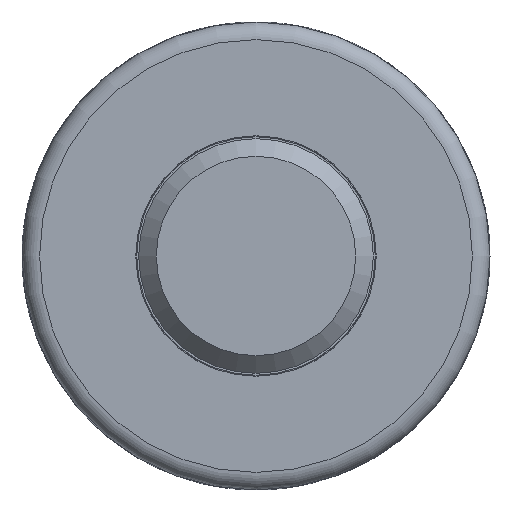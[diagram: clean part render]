
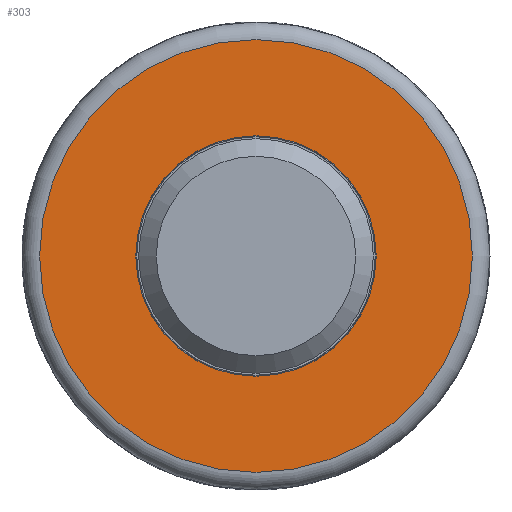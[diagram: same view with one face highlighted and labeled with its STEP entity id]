
A CAD part, front view. The second image highlights one B-rep face of the part: STEP entity #303.
In plain terms, the highlighted planar face has unit normal (0, -1, 0).
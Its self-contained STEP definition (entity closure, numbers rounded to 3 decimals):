
#303=ADVANCED_FACE('',(#387,#388),#339,.T.);
#339=PLANE('',#1209);
#355=CIRCLE('',#1194,2.05);
#364=CIRCLE('',#1208,3.69);
#387=FACE_BOUND('',#449,.T.);
#388=FACE_BOUND('',#450,.T.);
#449=EDGE_LOOP('',(#705));
#450=EDGE_LOOP('',(#706));
#705=ORIENTED_EDGE('',*,*,#1012,.T.);
#706=ORIENTED_EDGE('',*,*,#1003,.F.);
#865=VERTEX_POINT('',#6677);
#866=VERTEX_POINT('',#6692);
#1003=EDGE_CURVE('',#865,#865,#355,.T.);
#1012=EDGE_CURVE('',#866,#866,#364,.T.);
#1194=AXIS2_PLACEMENT_3D('',#6676,#1403,#1404);
#1208=AXIS2_PLACEMENT_3D('',#6691,#1431,#1432);
#1209=AXIS2_PLACEMENT_3D('',#6693,#1433,#1434);
#1403=DIRECTION('',(0.,-1.,0.));
#1404=DIRECTION('',(1.,0.,0.));
#1431=DIRECTION('',(0.,-1.,0.));
#1432=DIRECTION('',(1.,0.,0.));
#1433=DIRECTION('',(0.,-1.,0.));
#1434=DIRECTION('',(1.,0.,0.));
#6676=CARTESIAN_POINT('',(-43.01,-41.,0.));
#6677=CARTESIAN_POINT('',(-40.96,-41.,0.));
#6691=CARTESIAN_POINT('',(-43.01,-41.,0.));
#6692=CARTESIAN_POINT('',(-39.32,-41.,0.));
#6693=CARTESIAN_POINT('',(-40.72,-41.,0.));
